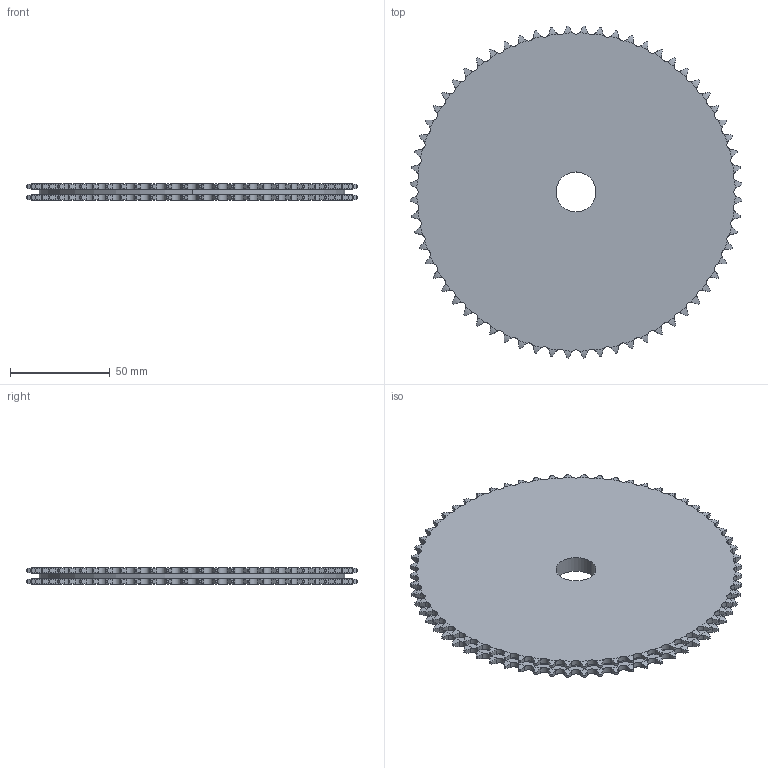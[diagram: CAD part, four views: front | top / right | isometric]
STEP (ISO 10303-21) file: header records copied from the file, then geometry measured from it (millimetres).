
FILE_DESCRIPTION((''),'2;1');
FILE_NAME('500-082-0064_PRT','2021-02-12T',('Brieden'),('Brieden'),'PRO/ENGINEER BY PARAMETRIC TECHNOLOGY CORPORATION, 2010160','PRO/ENGINEER BY PARAMETRIC TECHNOLOGY CORPORATION, 2010160','');
FILE_SCHEMA(('AUTOMOTIVE_DESIGN { 1 0 10303 214 1 1 1 1 }'));
Length unit declared in the file: millimetre
Products named in the file (1): 500-082-0064_PRT
Bounding box: 166.08 x 166.08 x 8.3 mm (x, y, z)
Volume: 160908.6 mm3; surface area: 49831.4 mm2
Topology: 1 solids, 1 shells, 776 faces, 2316 edges, 1544 vertices
Faces by surface type: cylinder 516, torus 256, plane 4
Entity records: 36852 total; most frequent: CARTESIAN_POINT 10221, ORIENTED_EDGE 4632, DIRECTION 3620, PRESENTATION_STYLE_ASSIGNMENT 2317, STYLED_ITEM 2317, CURVE_STYLE 2316, EDGE_CURVE 2316, AXIS2_PLACEMENT_3D 1552
